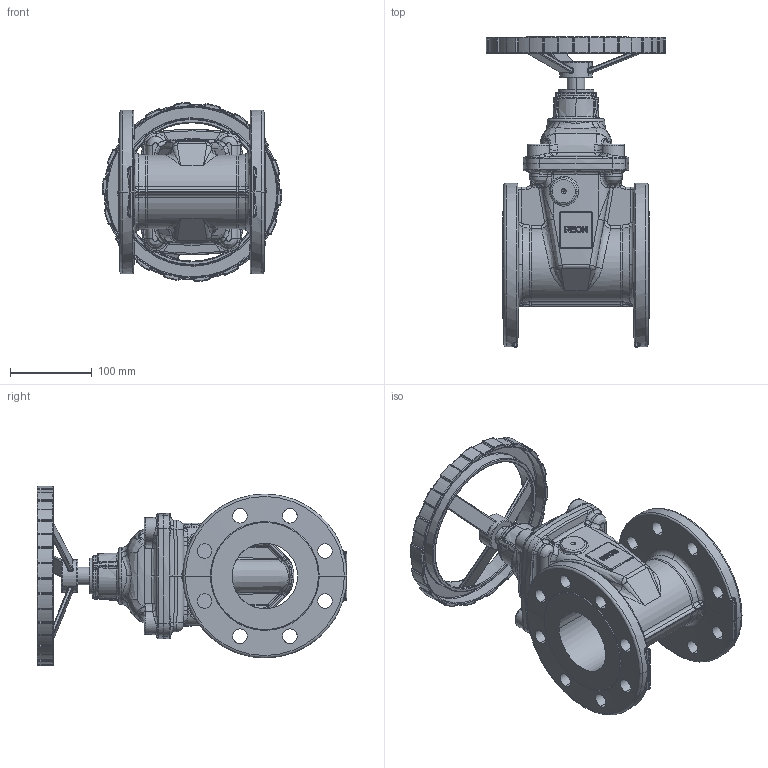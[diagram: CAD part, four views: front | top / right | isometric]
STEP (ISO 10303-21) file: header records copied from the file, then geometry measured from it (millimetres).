
FILE_DESCRIPTION (( 'STEP AP203' ), '1' );
FILE_NAME ('DN80掅概.STEP', '2026-09-16T03:15:57', ( 'Windows 蚚誧' ), ( 'Microsoft' ), 'SwSTEP 2.0', 'SolidWorks 2022', '' );
FILE_SCHEMA (( 'CONFIG_CONTROL_DESIGN' ));
Length unit declared in the file: millimetre
Products named in the file (8): DN80阀杆; hexagon socket head cap screws gb_GB_FASTENER_SCREWS_HSHCS M12X20-N; DN80上铜母; DN80阀板; D220手轮; DN80闸阀; DN80阀体; DN80阀盖
Assembly tree (11 placements, depth 2):
  DN80闸阀
    DN80阀体
    DN80阀盖
    hexagon socket head cap screws gb_GB_FASTENER_SCREWS_HSHCS M12X20-N  x4
    DN80阀板  x2
    DN80上铜母
    D220手轮
    DN80阀杆
Bounding box: 219.97 x 380.26 x 219.86 mm (x, y, z)
Volume: 2151325.2 mm3; surface area: 553572.8 mm2
Topology: 11 solids, 11 shells, 2230 faces, 5226 edges, 2937 vertices
Faces by surface type: bspline 1059, cylinder 564, plane 271, torus 179, sphere 108, cone 49
Entity records: 104818 total; most frequent: CARTESIAN_POINT 69023, ORIENTED_EDGE 8924, DIRECTION 5065, EDGE_CURVE 4462, VERTEX_POINT 2545, AXIS2_PLACEMENT_3D 2139, EDGE_LOOP 2023, ADVANCED_FACE 1949
